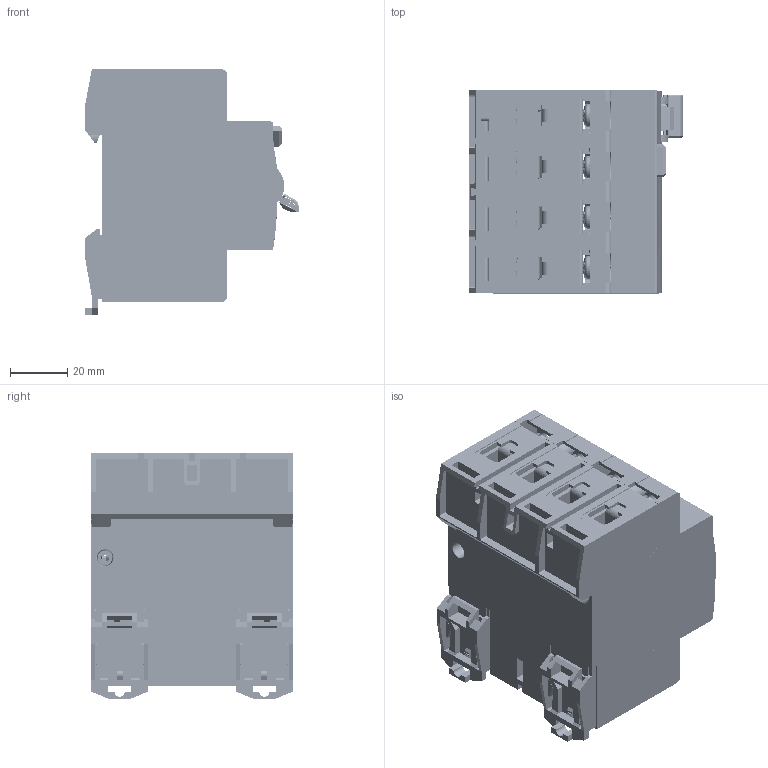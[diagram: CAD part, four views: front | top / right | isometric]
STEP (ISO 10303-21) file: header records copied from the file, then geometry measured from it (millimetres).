
FILE_DESCRIPTION (( 'STEP AP214' ), '1' );
FILE_NAME ('TFV4-40030.STEP', '2026-03-23T11:41:21', ( '' ), ( '' ), 'SwSTEP 2.0', 'SolidWorks 2025', '' );
FILE_SCHEMA (( 'AUTOMOTIVE_DESIGN' ));
Length unit declared in the file: millimetre
Products named in the file (1): TFV4-40030
Bounding box: 75.16 x 71 x 85.88 mm (x, y, z)
Volume: 82669.7 mm3; surface area: 113925.7 mm2
Topology: 36 solids, 36 shells, 4828 faces, 14437 edges, 9726 vertices
Faces by surface type: plane 2907, cylinder 1595, bspline 204, torus 82, cone 37, sphere 3
Entity records: 311252 total; most frequent: CARTESIAN_POINT 145165, ORIENTED_EDGE 28870, DIRECTION 22670, EDGE_CURVE 14435, VERTEX_POINT 9725, VECTOR 9292, LINE 9292, AXIS2_PLACEMENT_3D 6689
